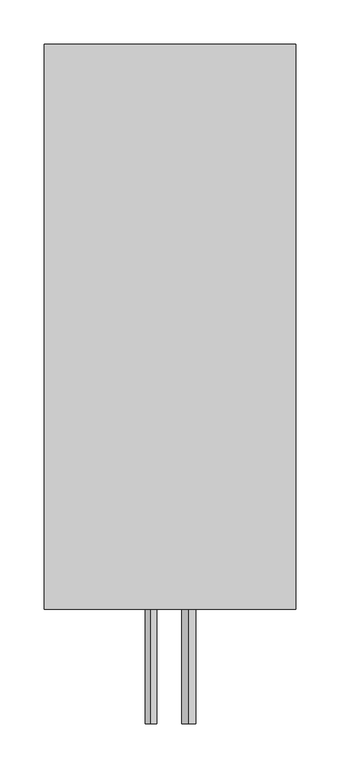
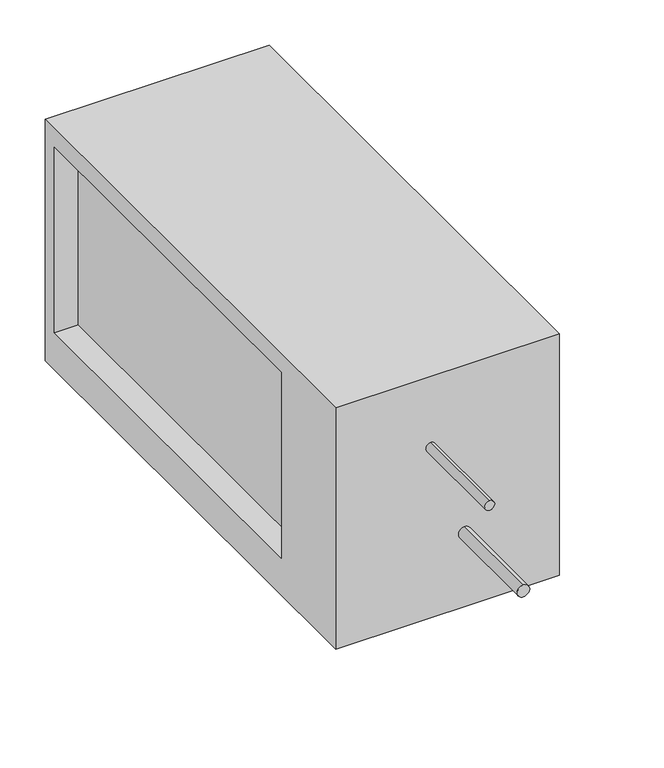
"""IFC4 building model written with IfcOpenShell, lengths in millimetres: proxy geometry, СВ_ВоздухоохладительФреоновый_КанальныйПрямоугольный_200-1000_SPC-F : SPC-F-500x250-R."""

from ifc_helpers import new_model, si_unit, point, frame, frame_2d, origin, place, context, project, spatial, polyline, circle_curve, trimmed, segment, composite_curve, outline, extrude, source, transform, mapped, element, save


def mechanical_equipment_501dd943(model_context):
    return source(origin(), model_context, "Body", "SweptSolid", [
        extrude(outline(polyline([(-370.0, -175.0), (-370.0, 150.0), (270.0, 150.0), (270.0, -175.0), (-370.0, -175.0)]), holes=[polyline([(-250.0, 125.0), (-250.0, -125.0), (250.0, -125.0), (250.0, 125.0), (-250.0, 125.0)])]), frame((-142.5, 0.0, 0.0), z_axis=(1.0, 0.0, 0.0), x_axis=(0.0, 1.0, 0.0)), (0.0, 0.0, 1.0), 285.0),
        extrude(outline(composite_curve([segment(trimmed(circle_curve(frame_2d((-75.0, 21.5)), 7.95), [point((-67.05, 21.5))], [point((-82.95, 21.5))], False, "CARTESIAN"), True, "CONTINUOUS"), segment(trimmed(circle_curve(frame_2d((-75.0, 21.5)), 7.95), [point((-82.95, 21.5))], [point((-67.05, 21.5))], False, "CARTESIAN"), True, "CONTINUOUS")], self_intersect=False)), frame((0.0, -500.0, 0.0), z_axis=(0.0, 1.0, 0.0), x_axis=(0.0, 0.0, 1.0)), (0.0, 0.0, 1.0), 130.0),
        extrude(outline(composite_curve([segment(trimmed(circle_curve(frame_2d((55.0, -21.5)), 6.35), [point((61.35, -21.5))], [point((48.65, -21.5))], False, "CARTESIAN"), True, "CONTINUOUS"), segment(trimmed(circle_curve(frame_2d((55.0, -21.5)), 6.35), [point((48.65, -21.5))], [point((61.35, -21.5))], False, "CARTESIAN"), True, "CONTINUOUS")], self_intersect=False)), frame((0.0, -500.0, 0.0), z_axis=(0.0, 1.0, 0.0), x_axis=(0.0, 0.0, 1.0)), (0.0, 0.0, 1.0), 130.0),
        extrude(outline(composite_curve([segment(trimmed(circle_curve(frame_2d((0.0, -330.0)), 11.0), [point((-11.0, -330.0))], [point((11.0, -330.0))], False, "CARTESIAN"), True, "CONTINUOUS"), segment(trimmed(circle_curve(frame_2d((0.0, -330.0)), 11.0), [point((11.0, -330.0))], [point((-11.0, -330.0))], False, "CARTESIAN"), True, "CONTINUOUS")], self_intersect=False)), frame((0.0, 0.0, -195.0), z_axis=(0.0, 0.0, 1.0), x_axis=(1.0, 0.0, 0.0)), (0.0, 0.0, 1.0), 20.0),
        extrude(outline(polyline([(112.5, 250.0), (112.5, -250.0), (-112.5, -250.0), (-112.5, 250.0), (112.5, 250.0)])), frame((0.0, 0.0, -125.0), z_axis=(0.0, 0.0, 1.0), x_axis=(1.0, 0.0, 0.0)), (0.0, 0.0, 1.0), 250.0),
    ])


if __name__ == "__main__":
    model = new_model("IFC4")
    model_context = context("Model", 3, world=origin())
    ifc_project = project(units=[si_unit("LENGTHUNIT", "METRE", prefix="MILLI")], contexts=[model_context])
    site = spatial("IfcSite", under=ifc_project)
    building = spatial("IfcBuilding", under=site)
    placement = place(None, origin())
    mechanical_equipment_shape = mechanical_equipment_501dd943(model_context)
    element("IfcBuildingElementProxy", 1, Name="СВ_ВоздухоохладительФреоновый_КанальныйПрямоугольный_200-1000_SPC-F : SPC-F-500x250-R", ObjectType="СВ_ВоздухоохладительФреоновый_КанальныйПрямоугольный_200-1000_SPC-F : SPC-F-500x250-R", at=placement, inside=building, context=model_context, shape_type="MappedRepresentation", body=[
        mapped(mechanical_equipment_shape, transform((0.0, 0.0, 0.0), x_axis=(1.0, 0.0, 0.0), y_axis=(0.0, 1.0, 0.0), z_axis=(0.0, 0.0, 1.0))),
    ])
    save(model, "model.ifc")
